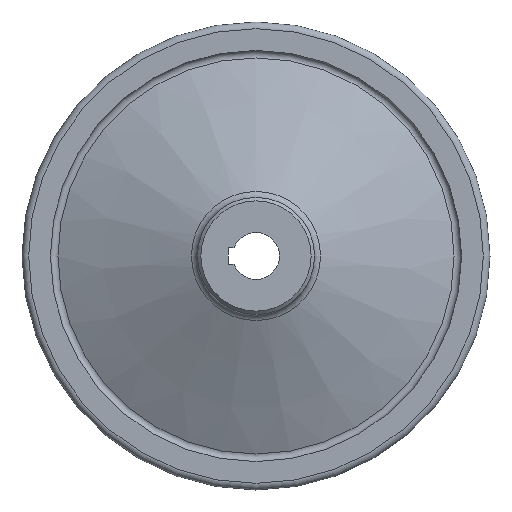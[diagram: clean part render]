
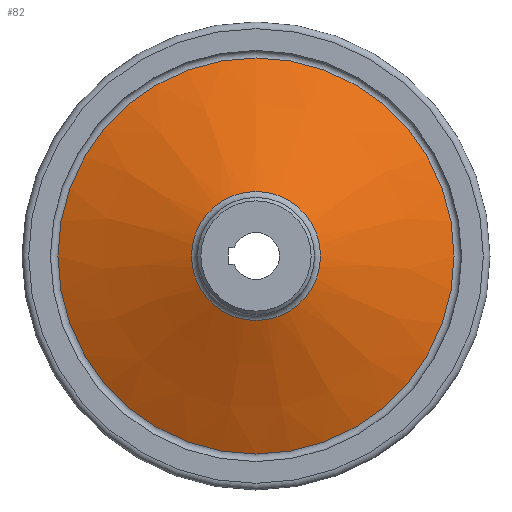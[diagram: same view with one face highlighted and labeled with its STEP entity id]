
A CAD part, left-side view. The second image highlights one B-rep face of the part: STEP entity #82.
In plain terms, the highlighted conical face has half-angle 66 degrees and reference radius 19.28 mm.
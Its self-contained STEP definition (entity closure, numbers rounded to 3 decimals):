
#82 = ADVANCED_FACE( '', ( #120, #121 ), #122, .T. );
#120 = FACE_OUTER_BOUND( '', #188, .T. );
#121 = FACE_BOUND( '', #189, .T. );
#122 = CONICAL_SURFACE( '', #190, 19.28, 1.152 );
#188 = EDGE_LOOP( '', ( #279 ) );
#189 = EDGE_LOOP( '', ( #280 ) );
#190 = AXIS2_PLACEMENT_3D( '', #281, #282, #283 );
#279 = ORIENTED_EDGE( '', *, *, #386, .T. );
#280 = ORIENTED_EDGE( '', *, *, #385, .F. );
#281 = CARTESIAN_POINT( '', ( 10.792, 0., 0. ) );
#282 = DIRECTION( '', ( 1., 0., 0. ) );
#283 = DIRECTION( '', ( 0., 0., -1. ) );
#385 = EDGE_CURVE( '', #429, #429, #430, .T. );
#386 = EDGE_CURVE( '', #431, #431, #432, .T. );
#429 = VERTEX_POINT( '', #495 );
#430 = CIRCLE( '', #496, 19.28 );
#431 = VERTEX_POINT( '', #497 );
#432 = CIRCLE( '', #498, 59.249 );
#495 = CARTESIAN_POINT( '', ( 10.792, 0., 19.28 ) );
#496 = AXIS2_PLACEMENT_3D( '', #556, #557, #558 );
#497 = CARTESIAN_POINT( '', ( 28.588, 0., 59.249 ) );
#498 = AXIS2_PLACEMENT_3D( '', #559, #560, #561 );
#556 = CARTESIAN_POINT( '', ( 10.792, 0., 0. ) );
#557 = DIRECTION( '', ( -1., 0., 0. ) );
#558 = DIRECTION( '', ( 0., 0., 1. ) );
#559 = CARTESIAN_POINT( '', ( 28.588, 0., 0. ) );
#560 = DIRECTION( '', ( -1., 0., 0. ) );
#561 = DIRECTION( '', ( 0., 0., 1. ) );
